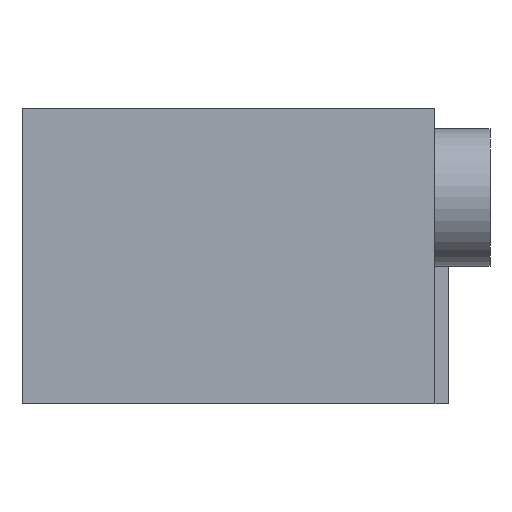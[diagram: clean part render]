
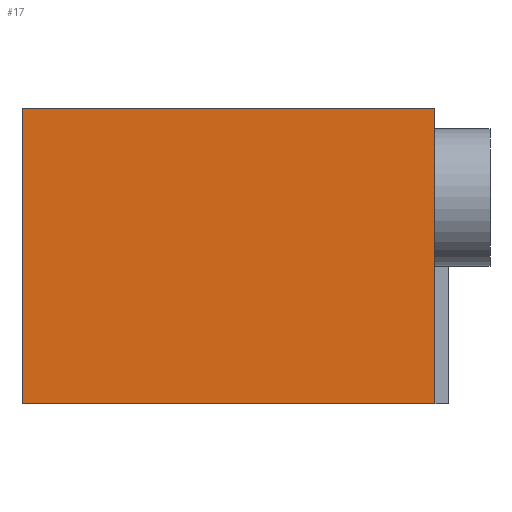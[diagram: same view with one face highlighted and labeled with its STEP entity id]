
A CAD part, left-side view. The second image highlights one B-rep face of the part: STEP entity #17.
In plain terms, the highlighted planar face has unit normal (-1, 0, 0).
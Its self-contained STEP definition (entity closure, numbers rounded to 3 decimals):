
#17 = ADVANCED_FACE('',(#18),#32,.F.);
#18 = FACE_BOUND('',#19,.F.);
#19 = EDGE_LOOP('',(#20,#55,#83,#111));
#20 = ORIENTED_EDGE('',*,*,#21,.F.);
#21 = EDGE_CURVE('',#22,#24,#26,.T.);
#22 = VERTEX_POINT('',#23);
#23 = CARTESIAN_POINT('',(0.,0.,2.5));
#24 = VERTEX_POINT('',#25);
#25 = CARTESIAN_POINT('',(0.,0.,24.));
#26 = SURFACE_CURVE('',#27,(#31,#43),.PCURVE_S1.);
#27 = LINE('',#28,#29);
#28 = CARTESIAN_POINT('',(0.,0.,2.5));
#29 = VECTOR('',#30,1.);
#30 = DIRECTION('',(0.,0.,1.));
#31 = PCURVE('',#32,#37);
#32 = PLANE('',#33);
#33 = AXIS2_PLACEMENT_3D('',#34,#35,#36);
#34 = CARTESIAN_POINT('',(0.,0.,2.5));
#35 = DIRECTION('',(1.,0.,-0.));
#36 = DIRECTION('',(0.,0.,1.));
#37 = DEFINITIONAL_REPRESENTATION('',(#38),#42);
#38 = LINE('',#39,#40);
#39 = CARTESIAN_POINT('',(0.,0.));
#40 = VECTOR('',#41,1.);
#41 = DIRECTION('',(1.,0.));
#42 = ( GEOMETRIC_REPRESENTATION_CONTEXT(2) 
PARAMETRIC_REPRESENTATION_CONTEXT() REPRESENTATION_CONTEXT('2D SPACE',''
  ) );
#43 = PCURVE('',#44,#49);
#44 = PLANE('',#45);
#45 = AXIS2_PLACEMENT_3D('',#46,#47,#48);
#46 = CARTESIAN_POINT('',(0.,0.,2.5));
#47 = DIRECTION('',(-0.,1.,0.));
#48 = DIRECTION('',(0.,0.,1.));
#49 = DEFINITIONAL_REPRESENTATION('',(#50),#54);
#50 = LINE('',#51,#52);
#51 = CARTESIAN_POINT('',(0.,0.));
#52 = VECTOR('',#53,1.);
#53 = DIRECTION('',(1.,0.));
#54 = ( GEOMETRIC_REPRESENTATION_CONTEXT(2) 
PARAMETRIC_REPRESENTATION_CONTEXT() REPRESENTATION_CONTEXT('2D SPACE',''
  ) );
#55 = ORIENTED_EDGE('',*,*,#56,.T.);
#56 = EDGE_CURVE('',#22,#57,#59,.T.);
#57 = VERTEX_POINT('',#58);
#58 = CARTESIAN_POINT('',(0.,30.,2.5));
#59 = SURFACE_CURVE('',#60,(#64,#71),.PCURVE_S1.);
#60 = LINE('',#61,#62);
#61 = CARTESIAN_POINT('',(0.,0.,2.5));
#62 = VECTOR('',#63,1.);
#63 = DIRECTION('',(-0.,1.,0.));
#64 = PCURVE('',#32,#65);
#65 = DEFINITIONAL_REPRESENTATION('',(#66),#70);
#66 = LINE('',#67,#68);
#67 = CARTESIAN_POINT('',(0.,0.));
#68 = VECTOR('',#69,1.);
#69 = DIRECTION('',(0.,-1.));
#70 = ( GEOMETRIC_REPRESENTATION_CONTEXT(2) 
PARAMETRIC_REPRESENTATION_CONTEXT() REPRESENTATION_CONTEXT('2D SPACE',''
  ) );
#71 = PCURVE('',#72,#77);
#72 = PLANE('',#73);
#73 = AXIS2_PLACEMENT_3D('',#74,#75,#76);
#74 = CARTESIAN_POINT('',(0.,0.,2.5));
#75 = DIRECTION('',(0.,0.,1.));
#76 = DIRECTION('',(1.,0.,-0.));
#77 = DEFINITIONAL_REPRESENTATION('',(#78),#82);
#78 = LINE('',#79,#80);
#79 = CARTESIAN_POINT('',(0.,0.));
#80 = VECTOR('',#81,1.);
#81 = DIRECTION('',(0.,1.));
#82 = ( GEOMETRIC_REPRESENTATION_CONTEXT(2) 
PARAMETRIC_REPRESENTATION_CONTEXT() REPRESENTATION_CONTEXT('2D SPACE',''
  ) );
#83 = ORIENTED_EDGE('',*,*,#84,.T.);
#84 = EDGE_CURVE('',#57,#85,#87,.T.);
#85 = VERTEX_POINT('',#86);
#86 = CARTESIAN_POINT('',(0.,30.,24.));
#87 = SURFACE_CURVE('',#88,(#92,#99),.PCURVE_S1.);
#88 = LINE('',#89,#90);
#89 = CARTESIAN_POINT('',(0.,30.,2.5));
#90 = VECTOR('',#91,1.);
#91 = DIRECTION('',(0.,0.,1.));
#92 = PCURVE('',#32,#93);
#93 = DEFINITIONAL_REPRESENTATION('',(#94),#98);
#94 = LINE('',#95,#96);
#95 = CARTESIAN_POINT('',(0.,-30.));
#96 = VECTOR('',#97,1.);
#97 = DIRECTION('',(1.,0.));
#98 = ( GEOMETRIC_REPRESENTATION_CONTEXT(2) 
PARAMETRIC_REPRESENTATION_CONTEXT() REPRESENTATION_CONTEXT('2D SPACE',''
  ) );
#99 = PCURVE('',#100,#105);
#100 = PLANE('',#101);
#101 = AXIS2_PLACEMENT_3D('',#102,#103,#104);
#102 = CARTESIAN_POINT('',(0.,30.,2.5));
#103 = DIRECTION('',(-0.,1.,0.));
#104 = DIRECTION('',(0.,0.,1.));
#105 = DEFINITIONAL_REPRESENTATION('',(#106),#110);
#106 = LINE('',#107,#108);
#107 = CARTESIAN_POINT('',(0.,0.));
#108 = VECTOR('',#109,1.);
#109 = DIRECTION('',(1.,0.));
#110 = ( GEOMETRIC_REPRESENTATION_CONTEXT(2) 
PARAMETRIC_REPRESENTATION_CONTEXT() REPRESENTATION_CONTEXT('2D SPACE',''
  ) );
#111 = ORIENTED_EDGE('',*,*,#112,.F.);
#112 = EDGE_CURVE('',#24,#85,#113,.T.);
#113 = SURFACE_CURVE('',#114,(#118,#125),.PCURVE_S1.);
#114 = LINE('',#115,#116);
#115 = CARTESIAN_POINT('',(0.,0.,24.));
#116 = VECTOR('',#117,1.);
#117 = DIRECTION('',(-0.,1.,0.));
#118 = PCURVE('',#32,#119);
#119 = DEFINITIONAL_REPRESENTATION('',(#120),#124);
#120 = LINE('',#121,#122);
#121 = CARTESIAN_POINT('',(21.5,0.));
#122 = VECTOR('',#123,1.);
#123 = DIRECTION('',(0.,-1.));
#124 = ( GEOMETRIC_REPRESENTATION_CONTEXT(2) 
PARAMETRIC_REPRESENTATION_CONTEXT() REPRESENTATION_CONTEXT('2D SPACE',''
  ) );
#125 = PCURVE('',#126,#131);
#126 = PLANE('',#127);
#127 = AXIS2_PLACEMENT_3D('',#128,#129,#130);
#128 = CARTESIAN_POINT('',(0.,0.,24.));
#129 = DIRECTION('',(0.,0.,1.));
#130 = DIRECTION('',(1.,0.,-0.));
#131 = DEFINITIONAL_REPRESENTATION('',(#132),#136);
#132 = LINE('',#133,#134);
#133 = CARTESIAN_POINT('',(0.,0.));
#134 = VECTOR('',#135,1.);
#135 = DIRECTION('',(0.,1.));
#136 = ( GEOMETRIC_REPRESENTATION_CONTEXT(2) 
PARAMETRIC_REPRESENTATION_CONTEXT() REPRESENTATION_CONTEXT('2D SPACE',''
  ) );
